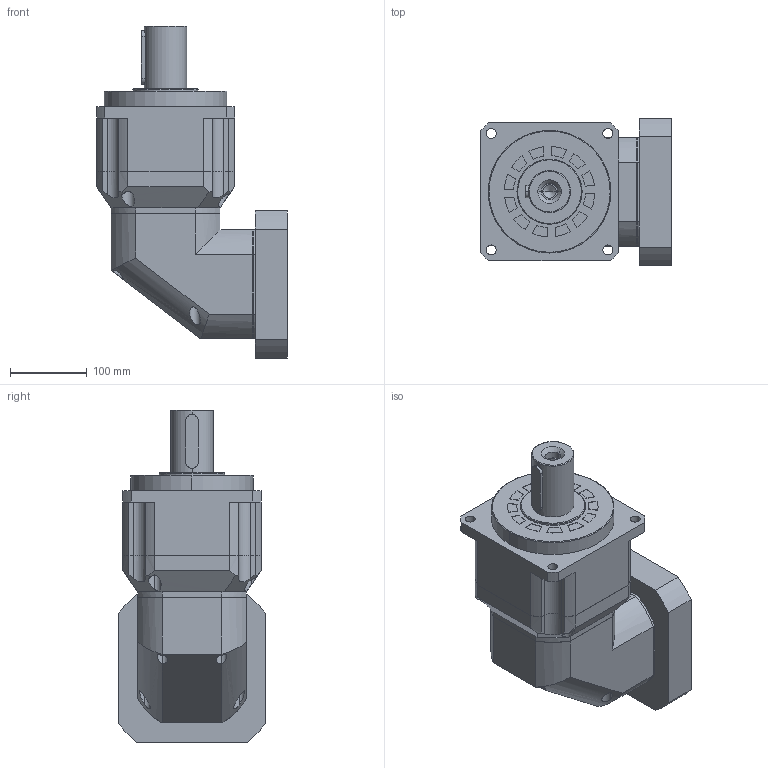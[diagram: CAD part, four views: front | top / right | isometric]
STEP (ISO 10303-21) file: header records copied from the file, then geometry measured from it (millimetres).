
FILE_DESCRIPTION (( 'STEP AP214' ), '1' );
FILE_NAME ('PAR180-L2-S2-P2.STEP', '2019-08-23T08:14:54', ( '微软用户' ), ( '微软中国' ), 'SwSTEP 2.0', 'SolidWorks 2014', '' );
FILE_SCHEMA (( 'AUTOMOTIVE_DESIGN' ));
Length unit declared in the file: millimetre
Products named in the file (2): PAR180-L2-S2-P2
Bounding box: 249 x 192 x 433 mm (x, y, z)
Volume: 8544589.7 mm3; surface area: 518598.1 mm2
Topology: 3 solids, 3 shells, 1089 faces, 3000 edges, 1986 vertices
Faces by surface type: plane 824, cylinder 171, bspline 76, cone 12, torus 6
Entity records: 49913 total; most frequent: CARTESIAN_POINT 10661, ORIENTED_EDGE 5980, DIRECTION 5045, EDGE_CURVE 2990, LINE 2417, VECTOR 2417, VERTEX_POINT 1986, AXIS2_PLACEMENT_3D 1314
